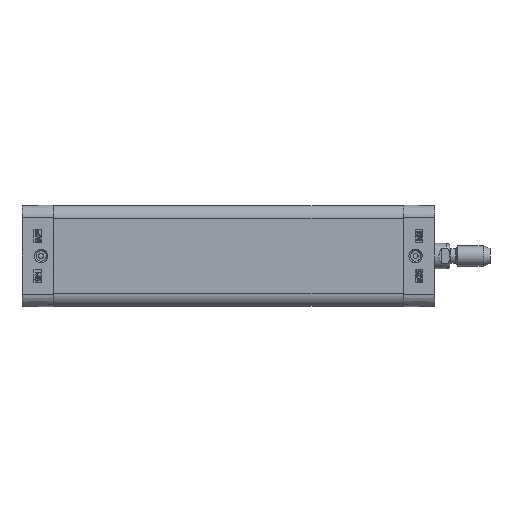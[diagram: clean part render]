
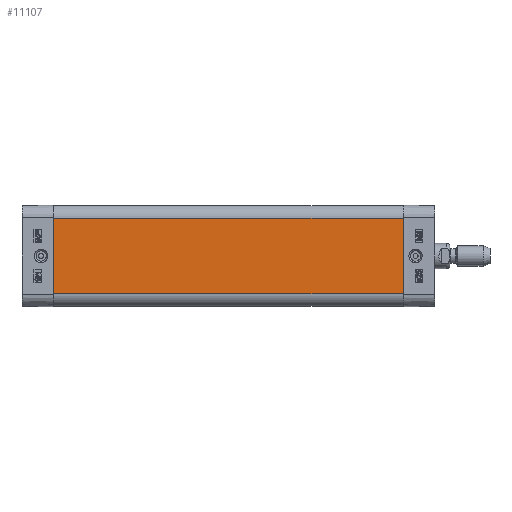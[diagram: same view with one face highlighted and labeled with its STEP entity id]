
A CAD part, left-side view. The second image highlights one B-rep face of the part: STEP entity #11107.
In plain terms, the highlighted planar face has unit normal (-1, 0, 0).
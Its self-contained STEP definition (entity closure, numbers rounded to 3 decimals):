
#8889=CARTESIAN_POINT('',(-20.,-139.0,15.0));
#8890=VERTEX_POINT('',#8889);
#8898=CARTESIAN_POINT('',(-20.,-139.0,-15.));
#8899=VERTEX_POINT('',#8898);
#8900=CARTESIAN_POINT('',(-20.,-139.0,-15.));
#8901=DIRECTION('',(0.0,0.0,1.0));
#8902=VECTOR('',#8901,30.);
#8903=LINE('',#8900,#8902);
#8904=EDGE_CURVE('',#8899,#8890,#8903,.T.);
#10035=CARTESIAN_POINT('',(-20.,0.0,15.0));
#10036=VERTEX_POINT('',#10035);
#10044=CARTESIAN_POINT('',(-20.,0.0,15.0));
#10045=DIRECTION('',(0.0,-1.0,0.0));
#10046=VECTOR('',#10045,139.0);
#10047=LINE('',#10044,#10046);
#10048=EDGE_CURVE('',#10036,#8890,#10047,.T.);
#11072=CARTESIAN_POINT('',(-20.,0.0,-15.));
#11073=VERTEX_POINT('',#11072);
#11074=CARTESIAN_POINT('',(-20.,0.0,-15.));
#11075=DIRECTION('',(0.0,-1.0,0.0));
#11076=VECTOR('',#11075,139.0);
#11077=LINE('',#11074,#11076);
#11078=EDGE_CURVE('',#11073,#8899,#11077,.T.);
#11091=CARTESIAN_POINT('',(-20.,0.0,-15.));
#11092=DIRECTION('',(-1.0,0.0,0.0));
#11093=DIRECTION('',(0.0,0.0,1.0));
#11094=AXIS2_PLACEMENT_3D('',#11091,#11092,#11093);
#11095=PLANE('',#11094);
#11096=ORIENTED_EDGE('',*,*,#8904,.T.);
#11097=ORIENTED_EDGE('',*,*,#10048,.F.);
#11098=CARTESIAN_POINT('',(-20.,0.0,-15.));
#11099=DIRECTION('',(0.0,0.0,1.0));
#11100=VECTOR('',#11099,30.);
#11101=LINE('',#11098,#11100);
#11102=EDGE_CURVE('',#11073,#10036,#11101,.T.);
#11103=ORIENTED_EDGE('',*,*,#11102,.F.);
#11104=ORIENTED_EDGE('',*,*,#11078,.T.);
#11105=EDGE_LOOP('',(#11096,#11097,#11103,#11104));
#11106=FACE_OUTER_BOUND('',#11105,.T.);
#11107=ADVANCED_FACE('',(#11106),#11095,.T.);
